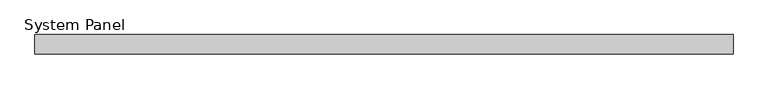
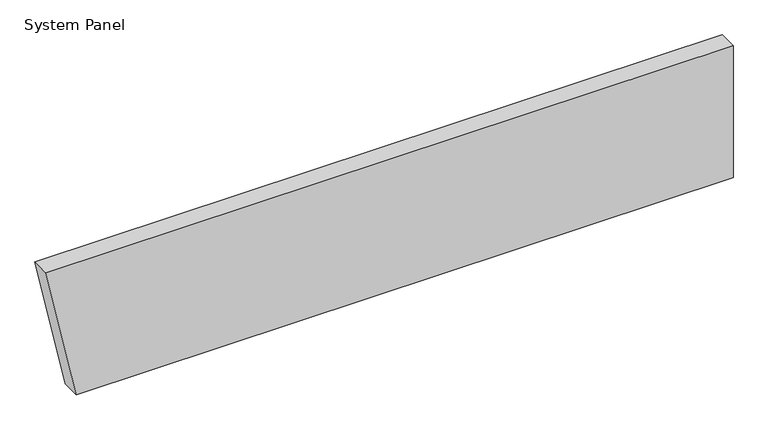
"""IFC4 building model written with IfcOpenShell, lengths in millimetres: plate geometry, System Panel : MetecnoPanel 150mm Horizontal - Plain Astro - PIR."""

from ifc_helpers import new_model, si_unit, frame, origin, place, context, project, spatial, polyline, outline, extrude, source, transform, mapped, element, save


def system_panel_73bd7d10(model_context):
    return source(origin(), model_context, "Body", "SweptSolid", [
        extrude(outline(polyline([(0.0, -2470.4338217), (0.0, 2709.5661783), (1100.0, 2709.5661783), (1100.0, -2709.5661783), (0.0, -2470.4338217)])), frame((0.0, -150.0, 0.0), z_axis=(0.0, 1.0, 0.0), x_axis=(0.0, 0.0, 1.0)), (0.0, 0.0, 1.0), 150.0),
    ])


if __name__ == "__main__":
    model = new_model("IFC4")
    model_context = context("Model", 3, world=origin())
    ifc_project = project(units=[si_unit("LENGTHUNIT", "METRE", prefix="MILLI")], contexts=[model_context])
    site = spatial("IfcSite", under=ifc_project)
    building = spatial("IfcBuilding", under=site)
    placement = place(None, origin())
    system_panel_shape = system_panel_73bd7d10(model_context)
    element("IfcPlate", 1, ObjectType="System Panel : MetecnoPanel 150mm Horizontal - Plain Astro - PIR", at=placement, inside=building, context=model_context, shape_type="MappedRepresentation", body=[
        mapped(system_panel_shape, transform((0.0, 0.0, 0.0), x_axis=(1.0, 0.0, 0.0), y_axis=(0.0, 1.0, 0.0), z_axis=(0.0, 0.0, 1.0))),
    ])
    save(model, "model.ifc")
